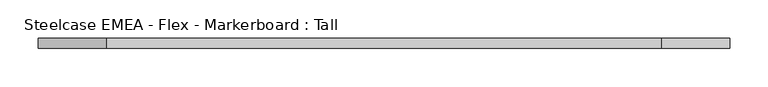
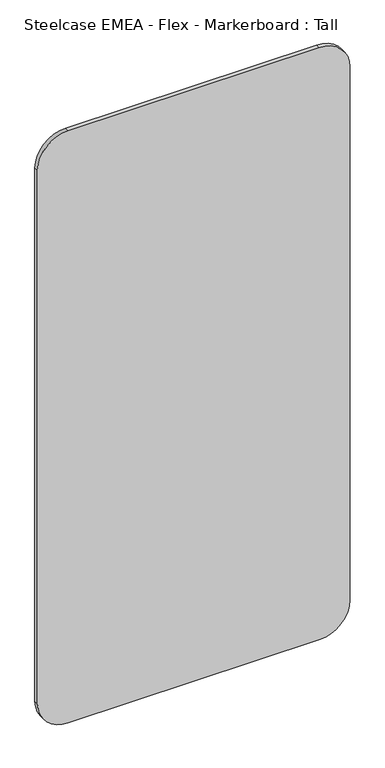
"""IFC4 building model written with IfcOpenShell, lengths in millimetres: furniture geometry, Steelcase EMEA - Flex - Markerboard : Tall."""

from ifc_helpers import new_model, si_unit, point, frame, frame_2d, origin, place, context, project, spatial, polyline, circle_curve, trimmed, segment, composite_curve, outline, extrude, source, transform, mapped, element, save


def steelcase_emea_flex_markerboard_tall_489af712(model_context):
    return source(origin(), model_context, "Body", "SweptSolid", [
        extrude(outline(composite_curve([segment(polyline([(1800.0, 811.1), (1800.0, 88.9)]), True, "CONTINUOUS"), segment(trimmed(circle_curve(frame_2d((1711.1, 88.9)), 88.9), [point((1800.0, 88.9))], [point((1711.1, 0.0))], False, "CARTESIAN"), True, "CONTINUOUS"), segment(polyline([(1711.1, 0.0), (88.9, 0.0)]), True, "CONTINUOUS"), segment(trimmed(circle_curve(frame_2d((88.9, 88.9)), 88.9), [point((88.9, 0.0))], [point((0.0, 88.9))], False, "CARTESIAN"), True, "CONTINUOUS"), segment(polyline([(0.0, 88.9), (0.0, 811.1)]), True, "CONTINUOUS"), segment(trimmed(circle_curve(frame_2d((88.9, 811.1)), 88.9), [point((0.0, 811.1))], [point((88.9, 900.0))], False, "CARTESIAN"), True, "CONTINUOUS"), segment(polyline([(88.9, 900.0), (1711.1, 900.0)]), True, "CONTINUOUS"), segment(trimmed(circle_curve(frame_2d((1711.1, 811.1)), 88.9), [point((1711.1, 900.0))], [point((1800.0, 811.1))], False, "CARTESIAN"), True, "CONTINUOUS")], self_intersect=False)), frame((0.0, 0.0, 0.0), z_axis=(0.0, 1.0, 0.0), x_axis=(0.0, 0.0, 1.0)), (0.0, 0.0, 1.0), 12.6929538),
    ])


if __name__ == "__main__":
    model = new_model("IFC4")
    model_context = context("Model", 3, world=origin())
    ifc_project = project(units=[si_unit("LENGTHUNIT", "METRE", prefix="MILLI")], contexts=[model_context])
    site = spatial("IfcSite", under=ifc_project)
    building = spatial("IfcBuilding", under=site)
    placement = place(None, origin())
    steelcase_emea_flex_markerboard_tall_shape = steelcase_emea_flex_markerboard_tall_489af712(model_context)
    element("IfcFurniture", 1, ObjectType="Steelcase EMEA - Flex - Markerboard : Tall", at=placement, inside=building, context=model_context, shape_type="MappedRepresentation", body=[
        mapped(steelcase_emea_flex_markerboard_tall_shape, transform((0.0, 0.0, 0.0), x_axis=(1.0, 0.0, 0.0), y_axis=(0.0, 1.0, 0.0), z_axis=(0.0, 0.0, 1.0))),
    ])
    save(model, "model.ifc")
